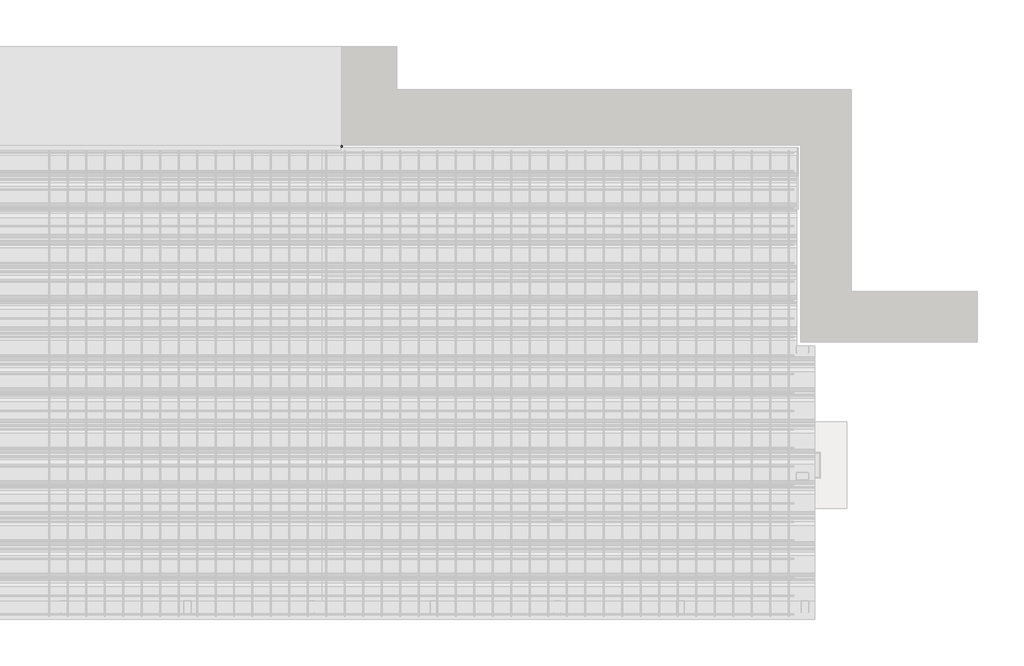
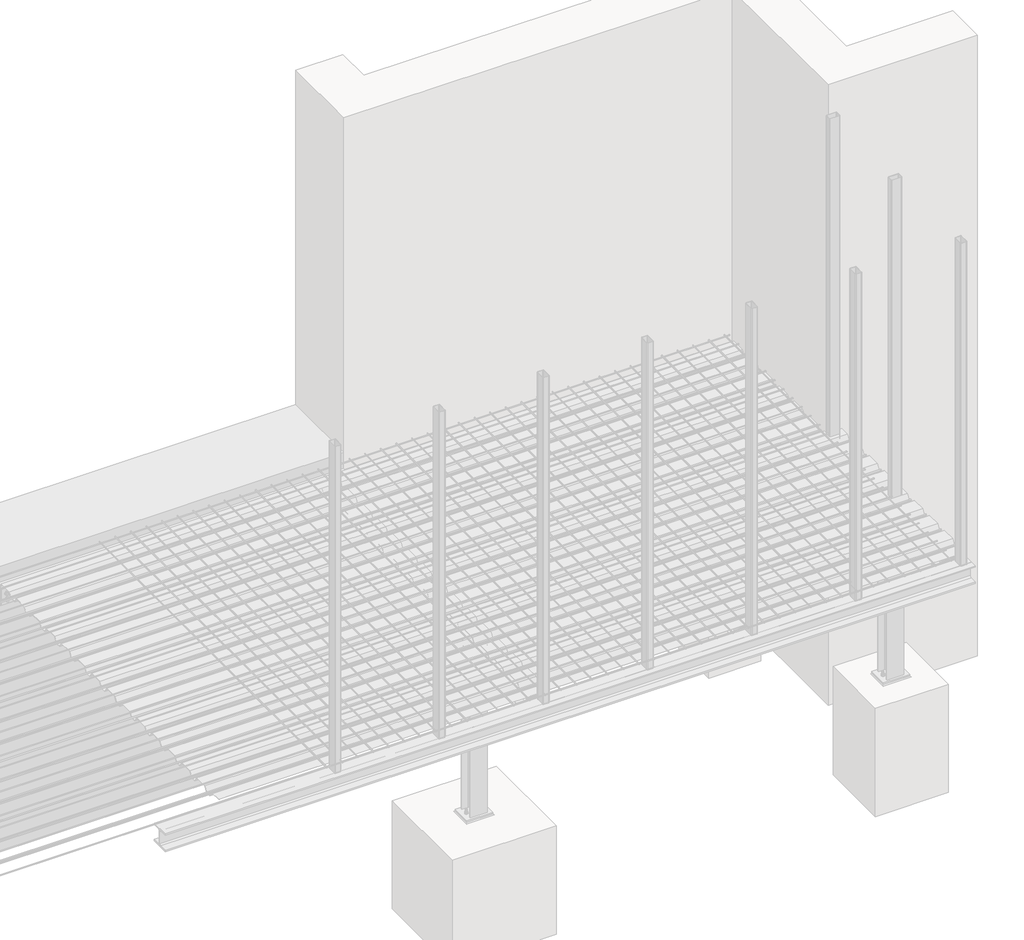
# One storey, part 17 of 36: 11 proxies.
"""IFC4 building model written with IfcOpenShell, lengths in millimetres."""

from ifc_helpers import new_model, si_unit, point, frame, frame_2d, origin, place, context, project, spatial, polyline, circle_curve, trimmed, segment, composite_curve, outline, extrude, element, save

model = new_model("IFC4")

# Units and contexts
model_context = context("Model", 3, world=origin())
ifc_project = project(units=[si_unit("LENGTHUNIT", "METRE", prefix="MILLI")], contexts=[model_context])

# Site, building, storey
site = spatial("IfcSite", under=ifc_project)
building = spatial("IfcBuilding", under=site)
storey = spatial("IfcBuildingStorey", under=building, Name="Základy", Elevation=-1200.0)

# Proxies
placement = place(None, origin())
element("IfcBuildingElementProxy", 1, Name="PLECH", ObjectType="PLECH", at=placement, inside=storey, context=model_context, shape_type="SweptSolid", body=[
    extrude(outline(polyline([(11960.0, 3775.0), (12140.0, 3775.0), (12140.0, 3767.0), (11960.0, 3767.0), (11960.0, 3775.0)])), frame((0.0, 0.0, -316.0), z_axis=(0.0, 0.0, 1.0), x_axis=(1.0, 0.0, 0.0)), (0.0, 0.0, 1.0), 132.0),
])
element("IfcBuildingElementProxy", 2, Name="PLECH", ObjectType="PLECH", at=placement, inside=storey, context=model_context, shape_type="SweptSolid", body=[
    extrude(outline(composite_curve([segment(polyline([(3785.0, -170.5), (3834.5, -170.5)]), True, "CONTINUOUS"), segment(trimmed(circle_curve(frame_2d((3854.5, -170.5)), 20.0), [point((3834.5, -170.5))], [point((3854.5, -190.5))], True, "CARTESIAN"), True, "CONTINUOUS"), segment(polyline([(3854.5, -190.5), (3854.5, -309.5)]), True, "CONTINUOUS"), segment(trimmed(circle_curve(frame_2d((3854.5, -329.5)), 20.0), [point((3854.5, -309.5))], [point((3834.5, -329.5))], True, "CARTESIAN"), True, "CONTINUOUS"), segment(polyline([(3834.5, -329.5), (3785.0, -329.5), (3785.0, -170.5)]), True, "CONTINUOUS")], self_intersect=False)), frame((12046.0, 0.0, 0.0), z_axis=(1.0, 0.0, 0.0), x_axis=(0.0, 1.0, 0.0)), (0.0, 0.0, 1.0), 8.0),
])
element("IfcBuildingElementProxy", 3, Name="PLECH", ObjectType="PLECH", at=placement, inside=storey, context=model_context, shape_type="SweptSolid", body=[
    extrude(outline(polyline([(11960.0, 3785.0), (12140.0, 3785.0), (12140.0, 3775.0), (11960.0, 3775.0), (11960.0, 3785.0)])), frame((0.0, 0.0, -332.0), z_axis=(0.0, 0.0, 1.0), x_axis=(1.0, 0.0, 0.0)), (0.0, 0.0, 1.0), 164.0),
])
element("IfcBuildingElementProxy", 4, Name="PLECH", ObjectType="PLECH", at=placement, inside=storey, context=model_context, shape_type="SweptSolid", body=[
    extrude(outline(polyline([(12305.0, 3855.0), (12305.0, 3765.0), (12295.0, 3765.0), (12295.0, 3855.0), (12305.0, 3855.0)])), frame((0.0, 0.0, -329.5), z_axis=(0.0, 0.0, 1.0), x_axis=(1.0, 0.0, 0.0)), (0.0, 0.0, 1.0), 159.0),
])
element("IfcBuildingElementProxy", 5, Name="PLECH", ObjectType="PLECH", at=placement, inside=storey, context=model_context, shape_type="SweptSolid", body=[
    extrude(outline(polyline([(12315.0, 3835.0), (12315.0, 3765.0), (12305.0, 3765.0), (12305.0, 3835.0), (12315.0, 3835.0)])), frame((0.0, 0.0, -329.5), z_axis=(0.0, 0.0, 1.0), x_axis=(1.0, 0.0, 0.0)), (0.0, 0.0, 1.0), 159.0),
])
element("IfcBuildingElementProxy", 6, Name="PLECH", ObjectType="PLECH", at=placement, inside=storey, context=model_context, shape_type="SweptSolid", body=[
    extrude(outline(polyline([(15940.0, 1170.0), (15940.0, 1350.0), (15950.0, 1350.0), (15950.0, 1170.0), (15940.0, 1170.0)])), frame((0.0, 0.0, -326.0), z_axis=(0.0, 0.0, 1.0), x_axis=(1.0, 0.0, 0.0)), (0.0, 0.0, 1.0), 152.0),
])
element("IfcBuildingElementProxy", 7, Name="PLECH", ObjectType="PLECH", at=placement, inside=storey, context=model_context, shape_type="SweptSolid", body=[
    extrude(outline(polyline([(13985.0, 3755.0), (14115.0, 3755.0), (14115.0, 3745.0), (13985.0, 3745.0), (13985.0, 3755.0)])), frame((0.0, 0.0, -332.0), z_axis=(0.0, 0.0, 1.0), x_axis=(1.0, 0.0, 0.0)), (0.0, 0.0, 1.0), 164.0),
])
element("IfcBuildingElementProxy", 8, Name="Bolt assembly", ObjectType="Bolt assembly", at=placement, inside=storey, context=model_context, shape_type="SweptSolid", body=[
    extrude(outline(composite_curve([segment(trimmed(circle_curve(frame_2d((-220.0, 12005.0)), 9.0), [point((-220.0, 12014.0))], [point((-220.0, 11996.0))], False, "CARTESIAN"), True, "CONTINUOUS"), segment(trimmed(circle_curve(frame_2d((-220.0, 12005.0)), 9.0), [point((-220.0, 11996.0))], [point((-220.0, 12014.0))], False, "CARTESIAN"), True, "CONTINUOUS")], self_intersect=False)), frame((0.0, 3774.9, 0.0), z_axis=(0.0, 1.0, 0.0), x_axis=(0.0, 0.0, 1.0)), (0.0, 0.0, 1.0), 10.0),
    extrude(outline(polyline([(-220.0, 12018.8564065), (-208.0, 12011.9282032), (-208.0, 11998.0717968), (-220.0, 11991.1435935), (-232.0, 11998.0717968), (-232.0, 12011.9282032), (-220.0, 12018.8564065)])), frame((0.0, 3788.0, 0.0), z_axis=(0.0, 1.0, 0.0), x_axis=(0.0, 0.0, 1.0)), (0.0, 0.0, 1.0), 10.0),
    extrude(outline(composite_curve([segment(trimmed(circle_curve(frame_2d((-220.0, 12005.0)), 8.0), [point((-220.0, 12013.0))], [point((-220.0, 11997.0))], False, "CARTESIAN"), True, "CONTINUOUS"), segment(trimmed(circle_curve(frame_2d((-220.0, 12005.0)), 8.0), [point((-220.0, 11997.0))], [point((-220.0, 12013.0))], False, "CARTESIAN"), True, "CONTINUOUS")], self_intersect=False)), frame((0.0, 3738.0, 0.0), z_axis=(0.0, 1.0, 0.0), x_axis=(0.0, 0.0, 1.0)), (0.0, 0.0, 1.0), 50.0),
    extrude(outline(composite_curve([segment(trimmed(circle_curve(frame_2d((-220.0, 12005.0)), 15.0), [point((-220.0, 12020.0))], [point((-220.0, 11990.0))], False, "CARTESIAN"), True, "CONTINUOUS"), segment(trimmed(circle_curve(frame_2d((-220.0, 12005.0)), 15.0), [point((-220.0, 11990.0))], [point((-220.0, 12020.0))], False, "CARTESIAN"), True, "CONTINUOUS")], self_intersect=False)), frame((0.0, 3785.0, 0.0), z_axis=(0.0, 1.0, 0.0), x_axis=(0.0, 0.0, 1.0)), (0.0, 0.0, 1.0), 3.0),
    extrude(outline(composite_curve([segment(trimmed(circle_curve(frame_2d((-220.0, 12005.0)), 15.0), [point((-220.0, 12020.0))], [point((-220.0, 11990.0))], False, "CARTESIAN"), True, "CONTINUOUS"), segment(trimmed(circle_curve(frame_2d((-220.0, 12005.0)), 15.0), [point((-220.0, 11990.0))], [point((-220.0, 12020.0))], False, "CARTESIAN"), True, "CONTINUOUS")], self_intersect=False)), frame((0.0, 3764.0, 0.0), z_axis=(0.0, 1.0, 0.0), x_axis=(0.0, 0.0, 1.0)), (0.0, 0.0, 1.0), 3.0),
    extrude(outline(polyline([(-220.0, 12020.4441197), (-206.625, 12012.7220599), (-206.625, 11997.2779401), (-220.0, 11989.5558803), (-233.375, 11997.2779401), (-233.375, 12012.7220599), (-220.0, 12020.4441197)])), frame((0.0, 3751.0, 0.0), z_axis=(0.0, 1.0, 0.0), x_axis=(0.0, 0.0, 1.0)), (0.0, 0.0, 1.0), 13.0),
    extrude(outline(composite_curve([segment(trimmed(circle_curve(frame_2d((-220.0, 12005.0)), 9.0), [point((-220.0, 12014.0))], [point((-220.0, 11996.0))], False, "CARTESIAN"), True, "CONTINUOUS"), segment(trimmed(circle_curve(frame_2d((-220.0, 12005.0)), 9.0), [point((-220.0, 11996.0))], [point((-220.0, 12014.0))], False, "CARTESIAN"), True, "CONTINUOUS")], self_intersect=False)), frame((0.0, 3767.0, 0.0), z_axis=(0.0, 1.0, 0.0), x_axis=(0.0, 0.0, 1.0)), (0.0, 0.0, 1.0), 8.1),
    extrude(outline(composite_curve([segment(trimmed(circle_curve(frame_2d((-220.0, 12095.0)), 9.0), [point((-220.0, 12104.0))], [point((-220.0, 12086.0))], False, "CARTESIAN"), True, "CONTINUOUS"), segment(trimmed(circle_curve(frame_2d((-220.0, 12095.0)), 9.0), [point((-220.0, 12086.0))], [point((-220.0, 12104.0))], False, "CARTESIAN"), True, "CONTINUOUS")], self_intersect=False)), frame((0.0, 3774.9, 0.0), z_axis=(0.0, 1.0, 0.0), x_axis=(0.0, 0.0, 1.0)), (0.0, 0.0, 1.0), 10.0),
    extrude(outline(polyline([(-220.0, 12108.8564065), (-208.0, 12101.9282032), (-208.0, 12088.0717968), (-220.0, 12081.1435935), (-232.0, 12088.0717968), (-232.0, 12101.9282032), (-220.0, 12108.8564065)])), frame((0.0, 3788.0, 0.0), z_axis=(0.0, 1.0, 0.0), x_axis=(0.0, 0.0, 1.0)), (0.0, 0.0, 1.0), 10.0),
    extrude(outline(composite_curve([segment(trimmed(circle_curve(frame_2d((-220.0, 12095.0)), 8.0), [point((-220.0, 12103.0))], [point((-220.0, 12087.0))], False, "CARTESIAN"), True, "CONTINUOUS"), segment(trimmed(circle_curve(frame_2d((-220.0, 12095.0)), 8.0), [point((-220.0, 12087.0))], [point((-220.0, 12103.0))], False, "CARTESIAN"), True, "CONTINUOUS")], self_intersect=False)), frame((0.0, 3738.0, 0.0), z_axis=(0.0, 1.0, 0.0), x_axis=(0.0, 0.0, 1.0)), (0.0, 0.0, 1.0), 50.0),
    extrude(outline(composite_curve([segment(trimmed(circle_curve(frame_2d((-220.0, 12095.0)), 15.0), [point((-220.0, 12110.0))], [point((-220.0, 12080.0))], False, "CARTESIAN"), True, "CONTINUOUS"), segment(trimmed(circle_curve(frame_2d((-220.0, 12095.0)), 15.0), [point((-220.0, 12080.0))], [point((-220.0, 12110.0))], False, "CARTESIAN"), True, "CONTINUOUS")], self_intersect=False)), frame((0.0, 3785.0, 0.0), z_axis=(0.0, 1.0, 0.0), x_axis=(0.0, 0.0, 1.0)), (0.0, 0.0, 1.0), 3.0),
    extrude(outline(composite_curve([segment(trimmed(circle_curve(frame_2d((-220.0, 12095.0)), 15.0), [point((-220.0, 12110.0))], [point((-220.0, 12080.0))], False, "CARTESIAN"), True, "CONTINUOUS"), segment(trimmed(circle_curve(frame_2d((-220.0, 12095.0)), 15.0), [point((-220.0, 12080.0))], [point((-220.0, 12110.0))], False, "CARTESIAN"), True, "CONTINUOUS")], self_intersect=False)), frame((0.0, 3764.0, 0.0), z_axis=(0.0, 1.0, 0.0), x_axis=(0.0, 0.0, 1.0)), (0.0, 0.0, 1.0), 3.0),
    extrude(outline(polyline([(-220.0, 12110.4441197), (-206.625, 12102.7220599), (-206.625, 12087.2779401), (-220.0, 12079.5558803), (-233.375, 12087.2779401), (-233.375, 12102.7220599), (-220.0, 12110.4441197)])), frame((0.0, 3751.0, 0.0), z_axis=(0.0, 1.0, 0.0), x_axis=(0.0, 0.0, 1.0)), (0.0, 0.0, 1.0), 13.0),
    extrude(outline(composite_curve([segment(trimmed(circle_curve(frame_2d((-220.0, 12095.0)), 9.0), [point((-220.0, 12104.0))], [point((-220.0, 12086.0))], False, "CARTESIAN"), True, "CONTINUOUS"), segment(trimmed(circle_curve(frame_2d((-220.0, 12095.0)), 9.0), [point((-220.0, 12086.0))], [point((-220.0, 12104.0))], False, "CARTESIAN"), True, "CONTINUOUS")], self_intersect=False)), frame((0.0, 3767.0, 0.0), z_axis=(0.0, 1.0, 0.0), x_axis=(0.0, 0.0, 1.0)), (0.0, 0.0, 1.0), 8.1),
    extrude(outline(composite_curve([segment(trimmed(circle_curve(frame_2d((-280.0, 12005.0)), 9.0), [point((-280.0, 12014.0))], [point((-280.0, 11996.0))], False, "CARTESIAN"), True, "CONTINUOUS"), segment(trimmed(circle_curve(frame_2d((-280.0, 12005.0)), 9.0), [point((-280.0, 11996.0))], [point((-280.0, 12014.0))], False, "CARTESIAN"), True, "CONTINUOUS")], self_intersect=False)), frame((0.0, 3774.9, 0.0), z_axis=(0.0, 1.0, 0.0), x_axis=(0.0, 0.0, 1.0)), (0.0, 0.0, 1.0), 10.0),
    extrude(outline(polyline([(-280.0, 12018.8564065), (-268.0, 12011.9282032), (-268.0, 11998.0717968), (-280.0, 11991.1435935), (-292.0, 11998.0717968), (-292.0, 12011.9282032), (-280.0, 12018.8564065)])), frame((0.0, 3788.0, 0.0), z_axis=(0.0, 1.0, 0.0), x_axis=(0.0, 0.0, 1.0)), (0.0, 0.0, 1.0), 10.0),
    extrude(outline(composite_curve([segment(trimmed(circle_curve(frame_2d((-280.0, 12005.0)), 8.0), [point((-280.0, 12013.0))], [point((-280.0, 11997.0))], False, "CARTESIAN"), True, "CONTINUOUS"), segment(trimmed(circle_curve(frame_2d((-280.0, 12005.0)), 8.0), [point((-280.0, 11997.0))], [point((-280.0, 12013.0))], False, "CARTESIAN"), True, "CONTINUOUS")], self_intersect=False)), frame((0.0, 3738.0, 0.0), z_axis=(0.0, 1.0, 0.0), x_axis=(0.0, 0.0, 1.0)), (0.0, 0.0, 1.0), 50.0),
    extrude(outline(composite_curve([segment(trimmed(circle_curve(frame_2d((-280.0, 12005.0)), 15.0), [point((-280.0, 12020.0))], [point((-280.0, 11990.0))], False, "CARTESIAN"), True, "CONTINUOUS"), segment(trimmed(circle_curve(frame_2d((-280.0, 12005.0)), 15.0), [point((-280.0, 11990.0))], [point((-280.0, 12020.0))], False, "CARTESIAN"), True, "CONTINUOUS")], self_intersect=False)), frame((0.0, 3785.0, 0.0), z_axis=(0.0, 1.0, 0.0), x_axis=(0.0, 0.0, 1.0)), (0.0, 0.0, 1.0), 3.0),
    extrude(outline(composite_curve([segment(trimmed(circle_curve(frame_2d((-280.0, 12005.0)), 15.0), [point((-280.0, 12020.0))], [point((-280.0, 11990.0))], False, "CARTESIAN"), True, "CONTINUOUS"), segment(trimmed(circle_curve(frame_2d((-280.0, 12005.0)), 15.0), [point((-280.0, 11990.0))], [point((-280.0, 12020.0))], False, "CARTESIAN"), True, "CONTINUOUS")], self_intersect=False)), frame((0.0, 3764.0, 0.0), z_axis=(0.0, 1.0, 0.0), x_axis=(0.0, 0.0, 1.0)), (0.0, 0.0, 1.0), 3.0),
    extrude(outline(polyline([(-280.0, 12020.4441197), (-266.625, 12012.7220599), (-266.625, 11997.2779401), (-280.0, 11989.5558803), (-293.375, 11997.2779401), (-293.375, 12012.7220599), (-280.0, 12020.4441197)])), frame((0.0, 3751.0, 0.0), z_axis=(0.0, 1.0, 0.0), x_axis=(0.0, 0.0, 1.0)), (0.0, 0.0, 1.0), 13.0),
    extrude(outline(composite_curve([segment(trimmed(circle_curve(frame_2d((-280.0, 12005.0)), 9.0), [point((-280.0, 12014.0))], [point((-280.0, 11996.0))], False, "CARTESIAN"), True, "CONTINUOUS"), segment(trimmed(circle_curve(frame_2d((-280.0, 12005.0)), 9.0), [point((-280.0, 11996.0))], [point((-280.0, 12014.0))], False, "CARTESIAN"), True, "CONTINUOUS")], self_intersect=False)), frame((0.0, 3767.0, 0.0), z_axis=(0.0, 1.0, 0.0), x_axis=(0.0, 0.0, 1.0)), (0.0, 0.0, 1.0), 8.1),
    extrude(outline(composite_curve([segment(trimmed(circle_curve(frame_2d((-280.0, 12095.0)), 9.0), [point((-280.0, 12104.0))], [point((-280.0, 12086.0))], False, "CARTESIAN"), True, "CONTINUOUS"), segment(trimmed(circle_curve(frame_2d((-280.0, 12095.0)), 9.0), [point((-280.0, 12086.0))], [point((-280.0, 12104.0))], False, "CARTESIAN"), True, "CONTINUOUS")], self_intersect=False)), frame((0.0, 3774.9, 0.0), z_axis=(0.0, 1.0, 0.0), x_axis=(0.0, 0.0, 1.0)), (0.0, 0.0, 1.0), 10.0),
    extrude(outline(polyline([(-280.0, 12108.8564065), (-268.0, 12101.9282032), (-268.0, 12088.0717968), (-280.0, 12081.1435935), (-292.0, 12088.0717968), (-292.0, 12101.9282032), (-280.0, 12108.8564065)])), frame((0.0, 3788.0, 0.0), z_axis=(0.0, 1.0, 0.0), x_axis=(0.0, 0.0, 1.0)), (0.0, 0.0, 1.0), 10.0),
    extrude(outline(composite_curve([segment(trimmed(circle_curve(frame_2d((-280.0, 12095.0)), 8.0), [point((-280.0, 12103.0))], [point((-280.0, 12087.0))], False, "CARTESIAN"), True, "CONTINUOUS"), segment(trimmed(circle_curve(frame_2d((-280.0, 12095.0)), 8.0), [point((-280.0, 12087.0))], [point((-280.0, 12103.0))], False, "CARTESIAN"), True, "CONTINUOUS")], self_intersect=False)), frame((0.0, 3738.0, 0.0), z_axis=(0.0, 1.0, 0.0), x_axis=(0.0, 0.0, 1.0)), (0.0, 0.0, 1.0), 50.0),
    extrude(outline(composite_curve([segment(trimmed(circle_curve(frame_2d((-280.0, 12095.0)), 15.0), [point((-280.0, 12110.0))], [point((-280.0, 12080.0))], False, "CARTESIAN"), True, "CONTINUOUS"), segment(trimmed(circle_curve(frame_2d((-280.0, 12095.0)), 15.0), [point((-280.0, 12080.0))], [point((-280.0, 12110.0))], False, "CARTESIAN"), True, "CONTINUOUS")], self_intersect=False)), frame((0.0, 3785.0, 0.0), z_axis=(0.0, 1.0, 0.0), x_axis=(0.0, 0.0, 1.0)), (0.0, 0.0, 1.0), 3.0),
    extrude(outline(composite_curve([segment(trimmed(circle_curve(frame_2d((-280.0, 12095.0)), 15.0), [point((-280.0, 12110.0))], [point((-280.0, 12080.0))], False, "CARTESIAN"), True, "CONTINUOUS"), segment(trimmed(circle_curve(frame_2d((-280.0, 12095.0)), 15.0), [point((-280.0, 12080.0))], [point((-280.0, 12110.0))], False, "CARTESIAN"), True, "CONTINUOUS")], self_intersect=False)), frame((0.0, 3764.0, 0.0), z_axis=(0.0, 1.0, 0.0), x_axis=(0.0, 0.0, 1.0)), (0.0, 0.0, 1.0), 3.0),
    extrude(outline(polyline([(-280.0, 12110.4441197), (-266.625, 12102.7220599), (-266.625, 12087.2779401), (-280.0, 12079.5558803), (-293.375, 12087.2779401), (-293.375, 12102.7220599), (-280.0, 12110.4441197)])), frame((0.0, 3751.0, 0.0), z_axis=(0.0, 1.0, 0.0), x_axis=(0.0, 0.0, 1.0)), (0.0, 0.0, 1.0), 13.0),
    extrude(outline(composite_curve([segment(trimmed(circle_curve(frame_2d((-280.0, 12095.0)), 9.0), [point((-280.0, 12104.0))], [point((-280.0, 12086.0))], False, "CARTESIAN"), True, "CONTINUOUS"), segment(trimmed(circle_curve(frame_2d((-280.0, 12095.0)), 9.0), [point((-280.0, 12086.0))], [point((-280.0, 12104.0))], False, "CARTESIAN"), True, "CONTINUOUS")], self_intersect=False)), frame((0.0, 3767.0, 0.0), z_axis=(0.0, 1.0, 0.0), x_axis=(0.0, 0.0, 1.0)), (0.0, 0.0, 1.0), 8.1),
])
element("IfcBuildingElementProxy", 9, Name="Bolt assembly", ObjectType="Bolt assembly", at=placement, inside=storey, context=model_context, shape_type="SweptSolid", body=[
    extrude(outline(polyline([(-250.0, 11934.8149546), (-241.5, 11929.9074773), (-241.5, 11920.0925227), (-250.0, 11915.1850454), (-258.5, 11920.0925227), (-258.5, 11929.9074773), (-250.0, 11934.8149546)])), frame((0.0, 3860.0, 0.0), z_axis=(0.0, 1.0, 0.0), x_axis=(0.0, 0.0, 1.0)), (0.0, 0.0, 1.0), 168.0),
    extrude(outline(composite_curve([segment(trimmed(circle_curve(frame_2d((-250.0, 11925.0)), 10.0), [point((-250.0, 11935.0))], [point((-250.0, 11915.0))], False, "CARTESIAN"), True, "CONTINUOUS"), segment(trimmed(circle_curve(frame_2d((-250.0, 11925.0)), 10.0), [point((-250.0, 11915.0))], [point((-250.0, 11935.0))], False, "CARTESIAN"), True, "CONTINUOUS")], self_intersect=False)), frame((0.0, 3788.0, 0.0), z_axis=(0.0, 1.0, 0.0), x_axis=(0.0, 0.0, 1.0)), (0.0, 0.0, 1.0), 72.0),
    extrude(outline(composite_curve([segment(trimmed(circle_curve(frame_2d((-250.0, 11925.0)), 18.5), [point((-250.0, 11943.5))], [point((-250.0, 11906.5))], False, "CARTESIAN"), True, "CONTINUOUS"), segment(trimmed(circle_curve(frame_2d((-250.0, 11925.0)), 18.5), [point((-250.0, 11906.5))], [point((-250.0, 11943.5))], False, "CARTESIAN"), True, "CONTINUOUS")], self_intersect=False)), frame((0.0, 3851.5, 0.0), z_axis=(0.0, 1.0, 0.0), x_axis=(0.0, 0.0, 1.0)), (0.0, 0.0, 1.0), 3.0),
    extrude(outline(polyline([(-250.0, 11942.3205081), (-235.0, 11933.660254), (-235.0, 11916.339746), (-250.0, 11907.6794919), (-265.0, 11916.339746), (-265.0, 11933.660254), (-250.0, 11942.3205081)])), frame((0.0, 3835.5, 0.0), z_axis=(0.0, 1.0, 0.0), x_axis=(0.0, 0.0, 1.0)), (0.0, 0.0, 1.0), 16.0),
    extrude(outline(composite_curve([segment(trimmed(circle_curve(frame_2d((-250.0, 11925.0)), 11.0), [point((-250.0, 11936.0))], [point((-250.0, 11914.0))], False, "CARTESIAN"), True, "CONTINUOUS"), segment(trimmed(circle_curve(frame_2d((-250.0, 11925.0)), 11.0), [point((-250.0, 11914.0))], [point((-250.0, 11936.0))], False, "CARTESIAN"), True, "CONTINUOUS")], self_intersect=False)), frame((0.0, 3854.4, 0.0), z_axis=(0.0, 1.0, 0.0), x_axis=(0.0, 0.0, 1.0)), (0.0, 0.0, 1.0), 5.6),
    extrude(outline(polyline([(-250.0, 12184.8149546), (-241.5, 12179.9074773), (-241.5, 12170.0925227), (-250.0, 12165.1850454), (-258.5, 12170.0925227), (-258.5, 12179.9074773), (-250.0, 12184.8149546)])), frame((0.0, 3860.0, 0.0), z_axis=(0.0, 1.0, 0.0), x_axis=(0.0, 0.0, 1.0)), (0.0, 0.0, 1.0), 168.0),
    extrude(outline(composite_curve([segment(trimmed(circle_curve(frame_2d((-250.0, 12175.0)), 10.0), [point((-250.0, 12185.0))], [point((-250.0, 12165.0))], False, "CARTESIAN"), True, "CONTINUOUS"), segment(trimmed(circle_curve(frame_2d((-250.0, 12175.0)), 10.0), [point((-250.0, 12165.0))], [point((-250.0, 12185.0))], False, "CARTESIAN"), True, "CONTINUOUS")], self_intersect=False)), frame((0.0, 3788.0, 0.0), z_axis=(0.0, 1.0, 0.0), x_axis=(0.0, 0.0, 1.0)), (0.0, 0.0, 1.0), 72.0),
    extrude(outline(composite_curve([segment(trimmed(circle_curve(frame_2d((-250.0, 12175.0)), 18.5), [point((-250.0, 12193.5))], [point((-250.0, 12156.5))], False, "CARTESIAN"), True, "CONTINUOUS"), segment(trimmed(circle_curve(frame_2d((-250.0, 12175.0)), 18.5), [point((-250.0, 12156.5))], [point((-250.0, 12193.5))], False, "CARTESIAN"), True, "CONTINUOUS")], self_intersect=False)), frame((0.0, 3851.5, 0.0), z_axis=(0.0, 1.0, 0.0), x_axis=(0.0, 0.0, 1.0)), (0.0, 0.0, 1.0), 3.0),
    extrude(outline(polyline([(-250.0, 12192.3205081), (-235.0, 12183.660254), (-235.0, 12166.339746), (-250.0, 12157.6794919), (-265.0, 12166.339746), (-265.0, 12183.660254), (-250.0, 12192.3205081)])), frame((0.0, 3835.5, 0.0), z_axis=(0.0, 1.0, 0.0), x_axis=(0.0, 0.0, 1.0)), (0.0, 0.0, 1.0), 16.0),
    extrude(outline(composite_curve([segment(trimmed(circle_curve(frame_2d((-250.0, 12175.0)), 11.0), [point((-250.0, 12186.0))], [point((-250.0, 12164.0))], False, "CARTESIAN"), True, "CONTINUOUS"), segment(trimmed(circle_curve(frame_2d((-250.0, 12175.0)), 11.0), [point((-250.0, 12164.0))], [point((-250.0, 12186.0))], False, "CARTESIAN"), True, "CONTINUOUS")], self_intersect=False)), frame((0.0, 3854.4, 0.0), z_axis=(0.0, 1.0, 0.0), x_axis=(0.0, 0.0, 1.0)), (0.0, 0.0, 1.0), 5.6),
])
element("IfcBuildingElementProxy", 10, Name="Bolt assembly", ObjectType="Bolt assembly", at=placement, inside=storey, context=model_context, shape_type="SweptSolid", body=[
    extrude(outline(composite_curve([segment(trimmed(circle_curve(frame_2d((3800.0, -290.0)), 9.0), [point((3809.0, -290.0))], [point((3791.0, -290.0))], False, "CARTESIAN"), True, "CONTINUOUS"), segment(trimmed(circle_curve(frame_2d((3800.0, -290.0)), 9.0), [point((3791.0, -290.0))], [point((3809.0, -290.0))], False, "CARTESIAN"), True, "CONTINUOUS")], self_intersect=False)), frame((12304.9, 0.0, 0.0), z_axis=(1.0, 0.0, 0.0), x_axis=(0.0, 1.0, 0.0)), (0.0, 0.0, 1.0), 10.0),
    extrude(outline(polyline([(3813.8564065, -290.0), (3806.9282032, -302.0), (3793.0717968, -302.0), (3786.1435935, -290.0), (3793.0717968, -278.0), (3806.9282032, -278.0), (3813.8564065, -290.0)])), frame((12318.0, 0.0, 0.0), z_axis=(1.0, 0.0, 0.0), x_axis=(0.0, 1.0, 0.0)), (0.0, 0.0, 1.0), 10.0),
    extrude(outline(composite_curve([segment(trimmed(circle_curve(frame_2d((3800.0, -290.0)), 8.0), [point((3808.0, -290.0))], [point((3792.0, -290.0))], False, "CARTESIAN"), True, "CONTINUOUS"), segment(trimmed(circle_curve(frame_2d((3800.0, -290.0)), 8.0), [point((3792.0, -290.0))], [point((3808.0, -290.0))], False, "CARTESIAN"), True, "CONTINUOUS")], self_intersect=False)), frame((12268.0, 0.0, 0.0), z_axis=(1.0, 0.0, 0.0), x_axis=(0.0, 1.0, 0.0)), (0.0, 0.0, 1.0), 50.0),
    extrude(outline(composite_curve([segment(trimmed(circle_curve(frame_2d((3800.0, -290.0)), 15.0), [point((3815.0, -290.0))], [point((3785.0, -290.0))], False, "CARTESIAN"), True, "CONTINUOUS"), segment(trimmed(circle_curve(frame_2d((3800.0, -290.0)), 15.0), [point((3785.0, -290.0))], [point((3815.0, -290.0))], False, "CARTESIAN"), True, "CONTINUOUS")], self_intersect=False)), frame((12315.0, 0.0, 0.0), z_axis=(1.0, 0.0, 0.0), x_axis=(0.0, 1.0, 0.0)), (0.0, 0.0, 1.0), 3.0),
    extrude(outline(composite_curve([segment(trimmed(circle_curve(frame_2d((3800.0, -290.0)), 15.0), [point((3815.0, -290.0))], [point((3785.0, -290.0))], False, "CARTESIAN"), True, "CONTINUOUS"), segment(trimmed(circle_curve(frame_2d((3800.0, -290.0)), 15.0), [point((3785.0, -290.0))], [point((3815.0, -290.0))], False, "CARTESIAN"), True, "CONTINUOUS")], self_intersect=False)), frame((12292.0, 0.0, 0.0), z_axis=(1.0, 0.0, 0.0), x_axis=(0.0, 1.0, 0.0)), (0.0, 0.0, 1.0), 3.0),
    extrude(outline(polyline([(3815.4441197, -290.0), (3807.7220599, -303.375), (3792.2779401, -303.375), (3784.5558803, -290.0), (3792.2779401, -276.625), (3807.7220599, -276.625), (3815.4441197, -290.0)])), frame((12279.0, 0.0, 0.0), z_axis=(1.0, 0.0, 0.0), x_axis=(0.0, 1.0, 0.0)), (0.0, 0.0, 1.0), 13.0),
    extrude(outline(composite_curve([segment(trimmed(circle_curve(frame_2d((3800.0, -290.0)), 9.0), [point((3809.0, -290.0))], [point((3791.0, -290.0))], False, "CARTESIAN"), True, "CONTINUOUS"), segment(trimmed(circle_curve(frame_2d((3800.0, -290.0)), 9.0), [point((3791.0, -290.0))], [point((3809.0, -290.0))], False, "CARTESIAN"), True, "CONTINUOUS")], self_intersect=False)), frame((12295.0, 0.0, 0.0), z_axis=(1.0, 0.0, 0.0), x_axis=(0.0, 1.0, 0.0)), (0.0, 0.0, 1.0), 10.1),
    extrude(outline(composite_curve([segment(trimmed(circle_curve(frame_2d((3800.0, -210.0)), 9.0), [point((3809.0, -210.0))], [point((3791.0, -210.0))], False, "CARTESIAN"), True, "CONTINUOUS"), segment(trimmed(circle_curve(frame_2d((3800.0, -210.0)), 9.0), [point((3791.0, -210.0))], [point((3809.0, -210.0))], False, "CARTESIAN"), True, "CONTINUOUS")], self_intersect=False)), frame((12304.9, 0.0, 0.0), z_axis=(1.0, 0.0, 0.0), x_axis=(0.0, 1.0, 0.0)), (0.0, 0.0, 1.0), 10.0),
    extrude(outline(polyline([(3813.8564065, -210.0), (3806.9282032, -222.0), (3793.0717968, -222.0), (3786.1435935, -210.0), (3793.0717968, -198.0), (3806.9282032, -198.0), (3813.8564065, -210.0)])), frame((12318.0, 0.0, 0.0), z_axis=(1.0, 0.0, 0.0), x_axis=(0.0, 1.0, 0.0)), (0.0, 0.0, 1.0), 10.0),
    extrude(outline(composite_curve([segment(trimmed(circle_curve(frame_2d((3800.0, -210.0)), 8.0), [point((3808.0, -210.0))], [point((3792.0, -210.0))], False, "CARTESIAN"), True, "CONTINUOUS"), segment(trimmed(circle_curve(frame_2d((3800.0, -210.0)), 8.0), [point((3792.0, -210.0))], [point((3808.0, -210.0))], False, "CARTESIAN"), True, "CONTINUOUS")], self_intersect=False)), frame((12268.0, 0.0, 0.0), z_axis=(1.0, 0.0, 0.0), x_axis=(0.0, 1.0, 0.0)), (0.0, 0.0, 1.0), 50.0),
    extrude(outline(composite_curve([segment(trimmed(circle_curve(frame_2d((3800.0, -210.0)), 15.0), [point((3815.0, -210.0))], [point((3785.0, -210.0))], False, "CARTESIAN"), True, "CONTINUOUS"), segment(trimmed(circle_curve(frame_2d((3800.0, -210.0)), 15.0), [point((3785.0, -210.0))], [point((3815.0, -210.0))], False, "CARTESIAN"), True, "CONTINUOUS")], self_intersect=False)), frame((12315.0, 0.0, 0.0), z_axis=(1.0, 0.0, 0.0), x_axis=(0.0, 1.0, 0.0)), (0.0, 0.0, 1.0), 3.0),
    extrude(outline(composite_curve([segment(trimmed(circle_curve(frame_2d((3800.0, -210.0)), 15.0), [point((3815.0, -210.0))], [point((3785.0, -210.0))], False, "CARTESIAN"), True, "CONTINUOUS"), segment(trimmed(circle_curve(frame_2d((3800.0, -210.0)), 15.0), [point((3785.0, -210.0))], [point((3815.0, -210.0))], False, "CARTESIAN"), True, "CONTINUOUS")], self_intersect=False)), frame((12292.0, 0.0, 0.0), z_axis=(1.0, 0.0, 0.0), x_axis=(0.0, 1.0, 0.0)), (0.0, 0.0, 1.0), 3.0),
    extrude(outline(polyline([(3815.4441197, -210.0), (3807.7220599, -223.375), (3792.2779401, -223.375), (3784.5558803, -210.0), (3792.2779401, -196.625), (3807.7220599, -196.625), (3815.4441197, -210.0)])), frame((12279.0, 0.0, 0.0), z_axis=(1.0, 0.0, 0.0), x_axis=(0.0, 1.0, 0.0)), (0.0, 0.0, 1.0), 13.0),
    extrude(outline(composite_curve([segment(trimmed(circle_curve(frame_2d((3800.0, -210.0)), 9.0), [point((3809.0, -210.0))], [point((3791.0, -210.0))], False, "CARTESIAN"), True, "CONTINUOUS"), segment(trimmed(circle_curve(frame_2d((3800.0, -210.0)), 9.0), [point((3791.0, -210.0))], [point((3809.0, -210.0))], False, "CARTESIAN"), True, "CONTINUOUS")], self_intersect=False)), frame((12295.0, 0.0, 0.0), z_axis=(1.0, 0.0, 0.0), x_axis=(0.0, 1.0, 0.0)), (0.0, 0.0, 1.0), 10.1),
])
element("IfcBuildingElementProxy", 11, Name="Bolt assembly", ObjectType="Bolt assembly", at=placement, inside=storey, context=model_context, shape_type="SweptSolid", body=[
    extrude(outline(composite_curve([segment(trimmed(circle_curve(frame_2d((1215.0, -210.0)), 8.5), [point((1215.0, -218.5))], [point((1215.0, -201.5))], False, "CARTESIAN"), True, "CONTINUOUS"), segment(trimmed(circle_curve(frame_2d((1215.0, -210.0)), 8.5), [point((1215.0, -201.5))], [point((1215.0, -218.5))], False, "CARTESIAN"), True, "CONTINUOUS")], self_intersect=False)), frame((15949.9, 0.0, 0.0), z_axis=(1.0, 0.0, 0.0), x_axis=(0.0, 1.0, 0.0)), (0.0, 0.0, 1.0), 10.0),
    extrude(outline(polyline([(1215.0, -223.8564065), (1203.0, -216.9282032), (1203.0, -203.0717968), (1215.0, -196.1435935), (1227.0, -203.0717968), (1227.0, -216.9282032), (1215.0, -223.8564065)])), frame((15963.0, 0.0, 0.0), z_axis=(1.0, 0.0, 0.0), x_axis=(0.0, 1.0, 0.0)), (0.0, 0.0, 1.0), 10.0),
    extrude(outline(composite_curve([segment(trimmed(circle_curve(frame_2d((1215.0, -210.0)), 8.0), [point((1215.0, -218.0))], [point((1215.0, -202.0))], False, "CARTESIAN"), True, "CONTINUOUS"), segment(trimmed(circle_curve(frame_2d((1215.0, -210.0)), 8.0), [point((1215.0, -202.0))], [point((1215.0, -218.0))], False, "CARTESIAN"), True, "CONTINUOUS")], self_intersect=False)), frame((15918.0, 0.0, 0.0), z_axis=(1.0, 0.0, 0.0), x_axis=(0.0, 1.0, 0.0)), (0.0, 0.0, 1.0), 45.0),
    extrude(outline(composite_curve([segment(trimmed(circle_curve(frame_2d((1215.0, -210.0)), 15.0), [point((1215.0, -225.0))], [point((1215.0, -195.0))], False, "CARTESIAN"), True, "CONTINUOUS"), segment(trimmed(circle_curve(frame_2d((1215.0, -210.0)), 15.0), [point((1215.0, -195.0))], [point((1215.0, -225.0))], False, "CARTESIAN"), True, "CONTINUOUS")], self_intersect=False)), frame((15960.0, 0.0, 0.0), z_axis=(1.0, 0.0, 0.0), x_axis=(0.0, 1.0, 0.0)), (0.0, 0.0, 1.0), 3.0),
    extrude(outline(composite_curve([segment(trimmed(circle_curve(frame_2d((1215.0, -210.0)), 15.0), [point((1215.0, -225.0))], [point((1215.0, -195.0))], False, "CARTESIAN"), True, "CONTINUOUS"), segment(trimmed(circle_curve(frame_2d((1215.0, -210.0)), 15.0), [point((1215.0, -195.0))], [point((1215.0, -225.0))], False, "CARTESIAN"), True, "CONTINUOUS")], self_intersect=False)), frame((15937.0, 0.0, 0.0), z_axis=(1.0, 0.0, 0.0), x_axis=(0.0, 1.0, 0.0)), (0.0, 0.0, 1.0), 3.0),
    extrude(outline(polyline([(1215.0, -225.4441197), (1201.625, -217.7220599), (1201.625, -202.2779401), (1215.0, -194.5558803), (1228.375, -202.2779401), (1228.375, -217.7220599), (1215.0, -225.4441197)])), frame((15924.0, 0.0, 0.0), z_axis=(1.0, 0.0, 0.0), x_axis=(0.0, 1.0, 0.0)), (0.0, 0.0, 1.0), 13.0),
    extrude(outline(composite_curve([segment(trimmed(circle_curve(frame_2d((1215.0, -210.0)), 8.5), [point((1215.0, -218.5))], [point((1215.0, -201.5))], False, "CARTESIAN"), True, "CONTINUOUS"), segment(trimmed(circle_curve(frame_2d((1215.0, -210.0)), 8.5), [point((1215.0, -201.5))], [point((1215.0, -218.5))], False, "CARTESIAN"), True, "CONTINUOUS")], self_intersect=False)), frame((15940.0, 0.0, 0.0), z_axis=(1.0, 0.0, 0.0), x_axis=(0.0, 1.0, 0.0)), (0.0, 0.0, 1.0), 10.1),
    extrude(outline(composite_curve([segment(trimmed(circle_curve(frame_2d((1215.0, -290.0)), 8.5), [point((1215.0, -298.5))], [point((1215.0, -281.5))], False, "CARTESIAN"), True, "CONTINUOUS"), segment(trimmed(circle_curve(frame_2d((1215.0, -290.0)), 8.5), [point((1215.0, -281.5))], [point((1215.0, -298.5))], False, "CARTESIAN"), True, "CONTINUOUS")], self_intersect=False)), frame((15949.9, 0.0, 0.0), z_axis=(1.0, 0.0, 0.0), x_axis=(0.0, 1.0, 0.0)), (0.0, 0.0, 1.0), 10.0),
    extrude(outline(polyline([(1215.0, -303.8564065), (1203.0, -296.9282032), (1203.0, -283.0717968), (1215.0, -276.1435935), (1227.0, -283.0717968), (1227.0, -296.9282032), (1215.0, -303.8564065)])), frame((15963.0, 0.0, 0.0), z_axis=(1.0, 0.0, 0.0), x_axis=(0.0, 1.0, 0.0)), (0.0, 0.0, 1.0), 10.0),
    extrude(outline(composite_curve([segment(trimmed(circle_curve(frame_2d((1215.0, -290.0)), 8.0), [point((1215.0, -298.0))], [point((1215.0, -282.0))], False, "CARTESIAN"), True, "CONTINUOUS"), segment(trimmed(circle_curve(frame_2d((1215.0, -290.0)), 8.0), [point((1215.0, -282.0))], [point((1215.0, -298.0))], False, "CARTESIAN"), True, "CONTINUOUS")], self_intersect=False)), frame((15918.0, 0.0, 0.0), z_axis=(1.0, 0.0, 0.0), x_axis=(0.0, 1.0, 0.0)), (0.0, 0.0, 1.0), 45.0),
    extrude(outline(composite_curve([segment(trimmed(circle_curve(frame_2d((1215.0, -290.0)), 15.0), [point((1215.0, -305.0))], [point((1215.0, -275.0))], False, "CARTESIAN"), True, "CONTINUOUS"), segment(trimmed(circle_curve(frame_2d((1215.0, -290.0)), 15.0), [point((1215.0, -275.0))], [point((1215.0, -305.0))], False, "CARTESIAN"), True, "CONTINUOUS")], self_intersect=False)), frame((15960.0, 0.0, 0.0), z_axis=(1.0, 0.0, 0.0), x_axis=(0.0, 1.0, 0.0)), (0.0, 0.0, 1.0), 3.0),
    extrude(outline(composite_curve([segment(trimmed(circle_curve(frame_2d((1215.0, -290.0)), 15.0), [point((1215.0, -305.0))], [point((1215.0, -275.0))], False, "CARTESIAN"), True, "CONTINUOUS"), segment(trimmed(circle_curve(frame_2d((1215.0, -290.0)), 15.0), [point((1215.0, -275.0))], [point((1215.0, -305.0))], False, "CARTESIAN"), True, "CONTINUOUS")], self_intersect=False)), frame((15937.0, 0.0, 0.0), z_axis=(1.0, 0.0, 0.0), x_axis=(0.0, 1.0, 0.0)), (0.0, 0.0, 1.0), 3.0),
    extrude(outline(polyline([(1215.0, -305.4441197), (1201.625, -297.7220599), (1201.625, -282.2779401), (1215.0, -274.5558803), (1228.375, -282.2779401), (1228.375, -297.7220599), (1215.0, -305.4441197)])), frame((15924.0, 0.0, 0.0), z_axis=(1.0, 0.0, 0.0), x_axis=(0.0, 1.0, 0.0)), (0.0, 0.0, 1.0), 13.0),
    extrude(outline(composite_curve([segment(trimmed(circle_curve(frame_2d((1215.0, -290.0)), 8.5), [point((1215.0, -298.5))], [point((1215.0, -281.5))], False, "CARTESIAN"), True, "CONTINUOUS"), segment(trimmed(circle_curve(frame_2d((1215.0, -290.0)), 8.5), [point((1215.0, -281.5))], [point((1215.0, -298.5))], False, "CARTESIAN"), True, "CONTINUOUS")], self_intersect=False)), frame((15940.0, 0.0, 0.0), z_axis=(1.0, 0.0, 0.0), x_axis=(0.0, 1.0, 0.0)), (0.0, 0.0, 1.0), 10.1),
    extrude(outline(composite_curve([segment(trimmed(circle_curve(frame_2d((1305.0, -210.0)), 8.5), [point((1305.0, -218.5))], [point((1305.0, -201.5))], False, "CARTESIAN"), True, "CONTINUOUS"), segment(trimmed(circle_curve(frame_2d((1305.0, -210.0)), 8.5), [point((1305.0, -201.5))], [point((1305.0, -218.5))], False, "CARTESIAN"), True, "CONTINUOUS")], self_intersect=False)), frame((15949.9, 0.0, 0.0), z_axis=(1.0, 0.0, 0.0), x_axis=(0.0, 1.0, 0.0)), (0.0, 0.0, 1.0), 10.0),
    extrude(outline(polyline([(1305.0, -223.8564065), (1293.0, -216.9282032), (1293.0, -203.0717968), (1305.0, -196.1435935), (1317.0, -203.0717968), (1317.0, -216.9282032), (1305.0, -223.8564065)])), frame((15963.0, 0.0, 0.0), z_axis=(1.0, 0.0, 0.0), x_axis=(0.0, 1.0, 0.0)), (0.0, 0.0, 1.0), 10.0),
    extrude(outline(composite_curve([segment(trimmed(circle_curve(frame_2d((1305.0, -210.0)), 8.0), [point((1305.0, -218.0))], [point((1305.0, -202.0))], False, "CARTESIAN"), True, "CONTINUOUS"), segment(trimmed(circle_curve(frame_2d((1305.0, -210.0)), 8.0), [point((1305.0, -202.0))], [point((1305.0, -218.0))], False, "CARTESIAN"), True, "CONTINUOUS")], self_intersect=False)), frame((15918.0, 0.0, 0.0), z_axis=(1.0, 0.0, 0.0), x_axis=(0.0, 1.0, 0.0)), (0.0, 0.0, 1.0), 45.0),
    extrude(outline(composite_curve([segment(trimmed(circle_curve(frame_2d((1305.0, -210.0)), 15.0), [point((1305.0, -225.0))], [point((1305.0, -195.0))], False, "CARTESIAN"), True, "CONTINUOUS"), segment(trimmed(circle_curve(frame_2d((1305.0, -210.0)), 15.0), [point((1305.0, -195.0))], [point((1305.0, -225.0))], False, "CARTESIAN"), True, "CONTINUOUS")], self_intersect=False)), frame((15960.0, 0.0, 0.0), z_axis=(1.0, 0.0, 0.0), x_axis=(0.0, 1.0, 0.0)), (0.0, 0.0, 1.0), 3.0),
    extrude(outline(composite_curve([segment(trimmed(circle_curve(frame_2d((1305.0, -210.0)), 15.0), [point((1305.0, -225.0))], [point((1305.0, -195.0))], False, "CARTESIAN"), True, "CONTINUOUS"), segment(trimmed(circle_curve(frame_2d((1305.0, -210.0)), 15.0), [point((1305.0, -195.0))], [point((1305.0, -225.0))], False, "CARTESIAN"), True, "CONTINUOUS")], self_intersect=False)), frame((15937.0, 0.0, 0.0), z_axis=(1.0, 0.0, 0.0), x_axis=(0.0, 1.0, 0.0)), (0.0, 0.0, 1.0), 3.0),
    extrude(outline(polyline([(1305.0, -225.4441197), (1291.625, -217.7220599), (1291.625, -202.2779401), (1305.0, -194.5558803), (1318.375, -202.2779401), (1318.375, -217.7220599), (1305.0, -225.4441197)])), frame((15924.0, 0.0, 0.0), z_axis=(1.0, 0.0, 0.0), x_axis=(0.0, 1.0, 0.0)), (0.0, 0.0, 1.0), 13.0),
    extrude(outline(composite_curve([segment(trimmed(circle_curve(frame_2d((1305.0, -210.0)), 8.5), [point((1305.0, -218.5))], [point((1305.0, -201.5))], False, "CARTESIAN"), True, "CONTINUOUS"), segment(trimmed(circle_curve(frame_2d((1305.0, -210.0)), 8.5), [point((1305.0, -201.5))], [point((1305.0, -218.5))], False, "CARTESIAN"), True, "CONTINUOUS")], self_intersect=False)), frame((15940.0, 0.0, 0.0), z_axis=(1.0, 0.0, 0.0), x_axis=(0.0, 1.0, 0.0)), (0.0, 0.0, 1.0), 10.1),
    extrude(outline(composite_curve([segment(trimmed(circle_curve(frame_2d((1305.0, -290.0)), 8.5), [point((1305.0, -298.5))], [point((1305.0, -281.5))], False, "CARTESIAN"), True, "CONTINUOUS"), segment(trimmed(circle_curve(frame_2d((1305.0, -290.0)), 8.5), [point((1305.0, -281.5))], [point((1305.0, -298.5))], False, "CARTESIAN"), True, "CONTINUOUS")], self_intersect=False)), frame((15949.9, 0.0, 0.0), z_axis=(1.0, 0.0, 0.0), x_axis=(0.0, 1.0, 0.0)), (0.0, 0.0, 1.0), 10.0),
    extrude(outline(polyline([(1305.0, -303.8564065), (1293.0, -296.9282032), (1293.0, -283.0717968), (1305.0, -276.1435935), (1317.0, -283.0717968), (1317.0, -296.9282032), (1305.0, -303.8564065)])), frame((15963.0, 0.0, 0.0), z_axis=(1.0, 0.0, 0.0), x_axis=(0.0, 1.0, 0.0)), (0.0, 0.0, 1.0), 10.0),
    extrude(outline(composite_curve([segment(trimmed(circle_curve(frame_2d((1305.0, -290.0)), 8.0), [point((1305.0, -298.0))], [point((1305.0, -282.0))], False, "CARTESIAN"), True, "CONTINUOUS"), segment(trimmed(circle_curve(frame_2d((1305.0, -290.0)), 8.0), [point((1305.0, -282.0))], [point((1305.0, -298.0))], False, "CARTESIAN"), True, "CONTINUOUS")], self_intersect=False)), frame((15918.0, 0.0, 0.0), z_axis=(1.0, 0.0, 0.0), x_axis=(0.0, 1.0, 0.0)), (0.0, 0.0, 1.0), 45.0),
    extrude(outline(composite_curve([segment(trimmed(circle_curve(frame_2d((1305.0, -290.0)), 15.0), [point((1305.0, -305.0))], [point((1305.0, -275.0))], False, "CARTESIAN"), True, "CONTINUOUS"), segment(trimmed(circle_curve(frame_2d((1305.0, -290.0)), 15.0), [point((1305.0, -275.0))], [point((1305.0, -305.0))], False, "CARTESIAN"), True, "CONTINUOUS")], self_intersect=False)), frame((15960.0, 0.0, 0.0), z_axis=(1.0, 0.0, 0.0), x_axis=(0.0, 1.0, 0.0)), (0.0, 0.0, 1.0), 3.0),
    extrude(outline(composite_curve([segment(trimmed(circle_curve(frame_2d((1305.0, -290.0)), 15.0), [point((1305.0, -305.0))], [point((1305.0, -275.0))], False, "CARTESIAN"), True, "CONTINUOUS"), segment(trimmed(circle_curve(frame_2d((1305.0, -290.0)), 15.0), [point((1305.0, -275.0))], [point((1305.0, -305.0))], False, "CARTESIAN"), True, "CONTINUOUS")], self_intersect=False)), frame((15937.0, 0.0, 0.0), z_axis=(1.0, 0.0, 0.0), x_axis=(0.0, 1.0, 0.0)), (0.0, 0.0, 1.0), 3.0),
    extrude(outline(polyline([(1305.0, -305.4441197), (1291.625, -297.7220599), (1291.625, -282.2779401), (1305.0, -274.5558803), (1318.375, -282.2779401), (1318.375, -297.7220599), (1305.0, -305.4441197)])), frame((15924.0, 0.0, 0.0), z_axis=(1.0, 0.0, 0.0), x_axis=(0.0, 1.0, 0.0)), (0.0, 0.0, 1.0), 13.0),
    extrude(outline(composite_curve([segment(trimmed(circle_curve(frame_2d((1305.0, -290.0)), 8.5), [point((1305.0, -298.5))], [point((1305.0, -281.5))], False, "CARTESIAN"), True, "CONTINUOUS"), segment(trimmed(circle_curve(frame_2d((1305.0, -290.0)), 8.5), [point((1305.0, -281.5))], [point((1305.0, -298.5))], False, "CARTESIAN"), True, "CONTINUOUS")], self_intersect=False)), frame((15940.0, 0.0, 0.0), z_axis=(1.0, 0.0, 0.0), x_axis=(0.0, 1.0, 0.0)), (0.0, 0.0, 1.0), 10.1),
])

save(model, "model.ifc")
